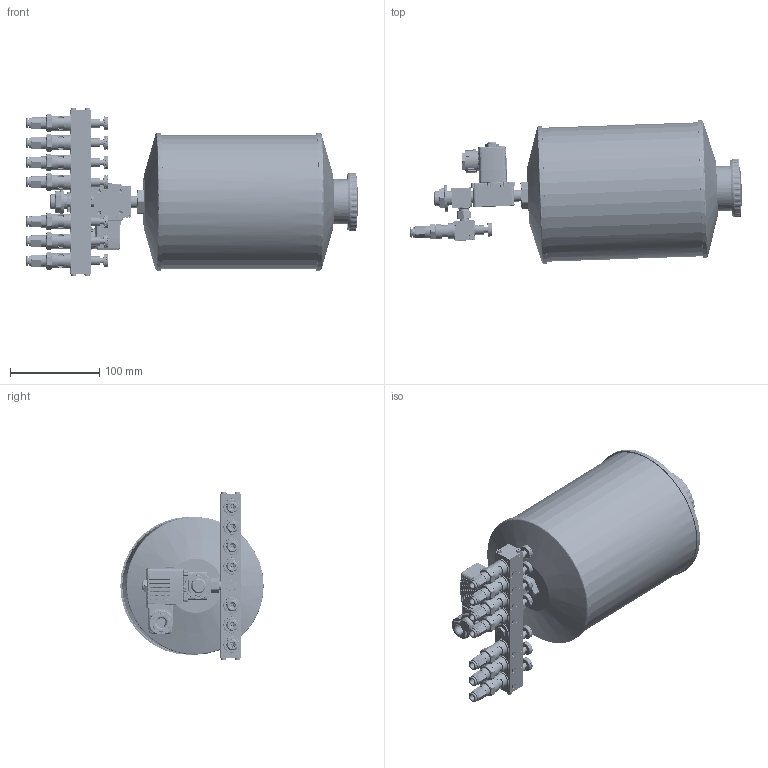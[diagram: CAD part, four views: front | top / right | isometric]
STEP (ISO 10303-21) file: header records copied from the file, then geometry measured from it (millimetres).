
FILE_DESCRIPTION (( 'STEP AP214' ), '1' );
FILE_NAME ('TRO_03_03_07_XXX.STEP', '2025-11-24T15:21:59', ( '' ), ( '' ), 'SwSTEP 2.0', 'SolidWorks 2022', '' );
FILE_SCHEMA (( 'AUTOMOTIVE_DESIGN' ));
Length unit declared in the file: millimetre
Products named in the file (20): OR 7.2X1.9_1; R200107-N1; 9911 0701 0601_6_1_8_HD; TRO_Magnetventil_ohne; OR 7.66X1.78; DR6_NEU; TRO_Endplatte; TRO_2er; TRO_2er_mittel; TRO_Stutzen.SLDPRT; TRO_Behaelter_03; TRO_03_03_07_XXX; TRO_Magnetventil_Stecker; RIVOLUZIONE_0; TRO_2er_mittel_Mit_Verschr.SLDPRT; DR6-C_HDX_25.07.16; TRO_1er_Mit_Verschr.SLDPRT; TRO_Magnetventil_aktuell
Assembly tree (22 placements, depth 4):
  OR 7.2X1.9_1
  R200107-N1
  DR6_NEU
  TRO_2er_mittel
  TRO_03_03_07_XXX
    TRO_2er_mittel_Mit_Verschr.SLDPRT
      TRO_Stutzen.SLDPRT
        TRO_2er_mittel
      TRO_2er
      9911 0701 0601_6_1_8_HD  x2
        RIVOLUZIONE_0
        OR 7.66X1.78
        DR6-C_HDX_25.07.16
    TRO_1er_Mit_Verschr.SLDPRT  x5
      TRO_2er
      9911 0701 0601_6_1_8_HD
        RIVOLUZIONE_0
        OR 7.66X1.78
        DR6-C_HDX_25.07.16
    TRO_Magnetventil_aktuell
      TRO_Magnetventil_ohne
      TRO_Magnetventil_Stecker
    TRO_Endplatte  x2
    TRO_Behaelter_03
Bounding box: 371.57 x 160.4 x 188.8 mm (x, y, z)
Volume: 617703.4 mm3; surface area: 420096.6 mm2
Topology: 44 solids, 44 shells, 8680 faces, 22420 edges, 13978 vertices
Faces by surface type: bspline 3389, plane 3026, cylinder 1499, cone 763, torus 3
Full cylindrical faces by diameter (mm): 1.5 x7, 2 x7, 3.5 x11, 3.8 x7, 4.2 x7, 4.5 x7, 5.5 x4, 5.9 x14, 6 x2, 6.2 x7, 6.25 x1, 6.3 x7, 6.75 x1, 7 x8, 7.2 x7, 7.4 x1, 8 x2, 8.3 x7, 8.4 x1, 8.5 x1, 8.6 x10, 8.8 x1, 9 x8, 9.2 x1, 9.5 x7, 9.728 x7, 9.8 x1, 9.9 x7, 10 x18, 10.1 x1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
Entity records: 313305 total; most frequent: CARTESIAN_POINT 170840, ORIENTED_EDGE 32198, DIRECTION 18642, EDGE_CURVE 16099, VERTEX_POINT 10212, B_SPLINE_CURVE_WITH_KNOTS 7533, AXIS2_PLACEMENT_3D 7009, EDGE_LOOP 6977
